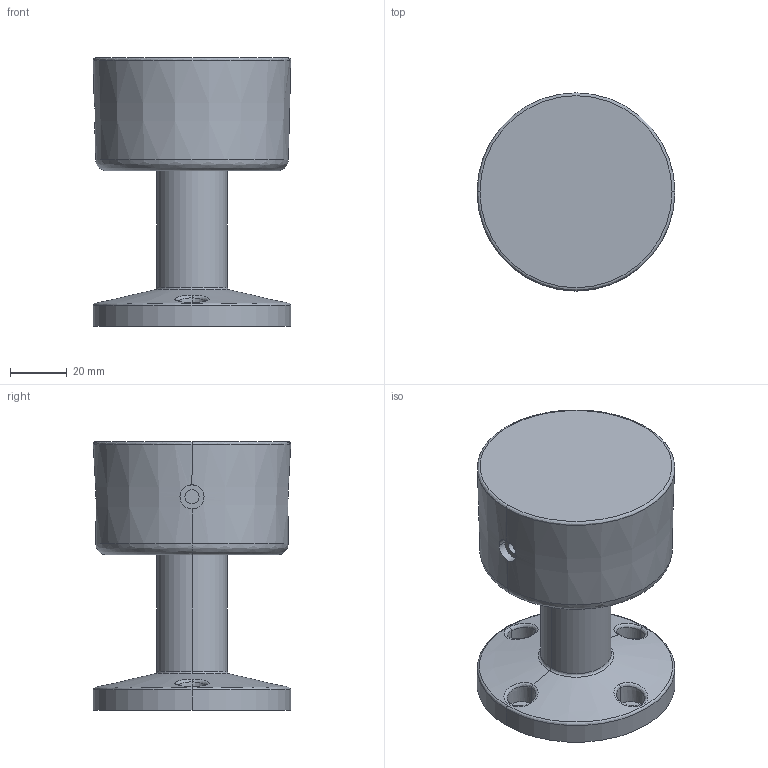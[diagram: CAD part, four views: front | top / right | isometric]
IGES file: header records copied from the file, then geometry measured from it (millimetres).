
Start section: IGES file generated by C3D Converter 1.6 translator by C3D Labs., translator version IGESOUT-5.1.
Global section: file name: HC:\Users\沓膼\OneDrive\Desktop\欙鵳醆TL70\鐕謽僗\扻豵鵨.igs; preprocessor: 1.0; author: 沓膼,7; organization: Hunknown; date: -17760826:041640; units: millimetre
Bounding box: 70 x 70 x 95 mm (x, y, z)
Volume: 154165.6 mm3; surface area: 42329.6 mm2
Topology: 1 solids, 1 shells, 159 faces, 433 edges, 282 vertices
Faces by surface type: bspline 87, revolution 72
